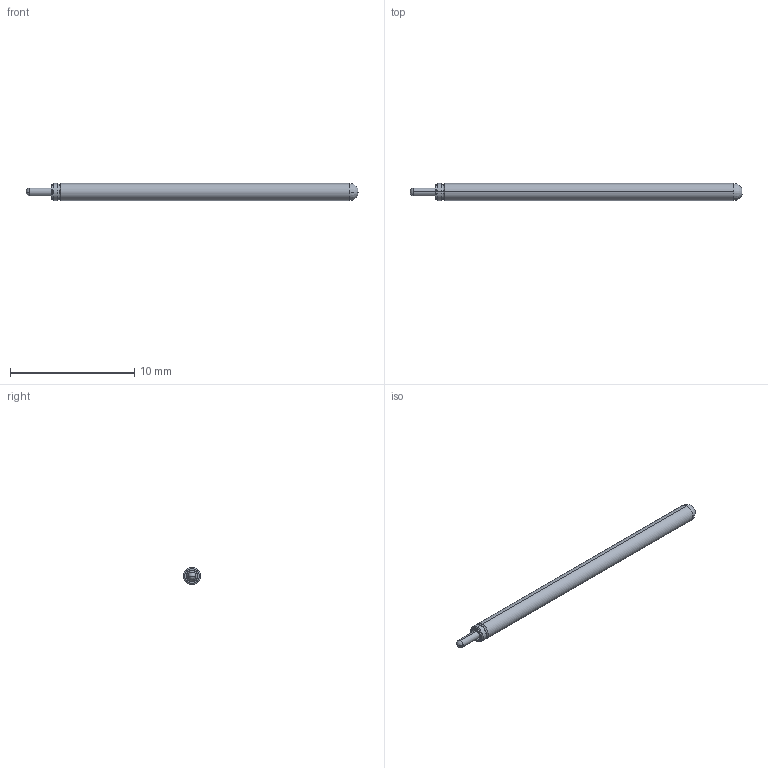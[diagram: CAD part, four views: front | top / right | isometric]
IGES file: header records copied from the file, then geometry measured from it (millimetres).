
Start section: SolidWorks IGES file using analytic representation for surfaces
Global section: file name: Z:\probe solid model mockups\Solidworks models\POGO-25 IGS files\POGO-25J Full.IGS; native system: SolidWorks 2006 by SolidWorks Corporation; preprocessor: SolidWorks 2006 by SolidWorks Corporation; author: tsakatani; date: 071214.094921; units: inch
Bounding box: 26.67 x 1.37 x 1.37 mm (x, y, z)
Surface area: 133.6 mm2 (no closed solid volume)
Topology: 0 solids, 0 shells, 24 faces, 144 edges, 142 vertices
Faces by surface type: revolution 18, bspline 6
